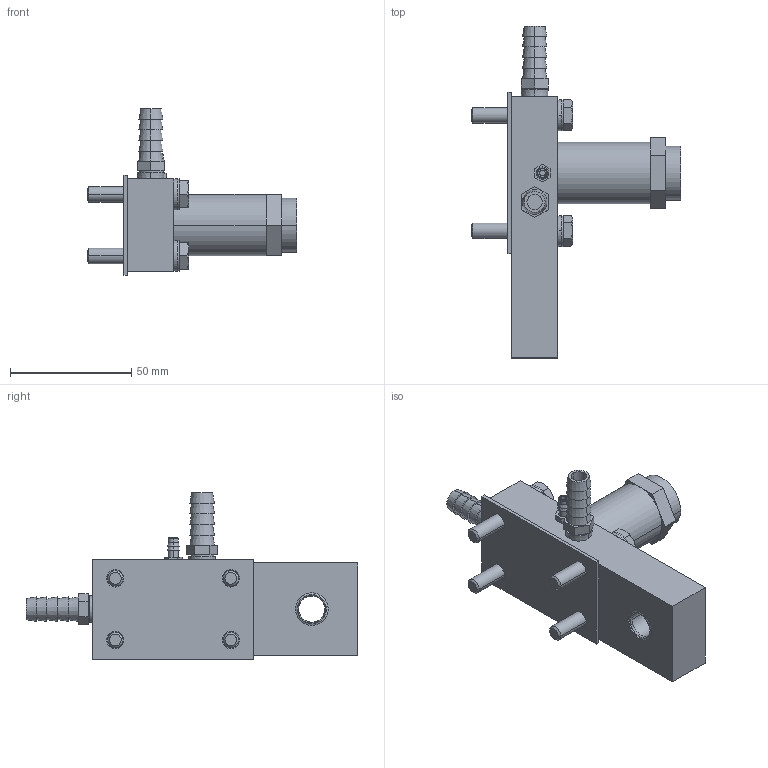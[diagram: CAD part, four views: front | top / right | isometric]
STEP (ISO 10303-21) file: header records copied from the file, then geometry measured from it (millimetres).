
FILE_DESCRIPTION((''),'2;1');
FILE_NAME('UJ2_ASM','2017-08-24T',('jennifer.elliott'),('CenterLine (Windsor) Ltd - Automation Components Division'),'PRO/ENGINEER BY PARAMETRIC TECHNOLOGY CORPORATION, 2015030','PRO/ENGINEER BY PARAMETRIC TECHNOLOGY CORPORATION, 2015030','');
FILE_SCHEMA(('AUTOMOTIVE_DESIGN { 1 0 10303 214 1 1 1 1 }'));
Length unit declared in the file: inch
Products named in the file (22): PRT0317; PRT0318; PRT0319; PRT0320; PRT0321; PRT0322; PRT0323; PRT0324; PRT0325; PRT0326; PRT0327; PRT0328; PRT0329; PRT0330; PRT0331; PRT0332; PRT0333; PRT0334; PRT0335; PRT0336; PRT0337; UJ2_ASM
Assembly tree (21 placements, depth 2):
  UJ2_ASM
    PRT0317
    PRT0318
    PRT0319
    PRT0320
    PRT0321
    PRT0322
    PRT0323
    PRT0324
    PRT0325
    PRT0326
    PRT0327
    PRT0328
    PRT0329
    PRT0330
    PRT0331
    PRT0332
    PRT0333
    PRT0334
    PRT0335
    PRT0336
    PRT0337
Bounding box: 86.55 x 136.91 x 68.64 mm (x, y, z)
Volume: 112287.3 mm3; surface area: 42612 mm2
Topology: 21 solids, 21 shells, 283 faces, 606 edges, 390 vertices
Faces by surface type: plane 123, cylinder 88, cone 68, torus 4
Entity records: 9358 total; most frequent: CARTESIAN_POINT 1638, DIRECTION 1492, ORIENTED_EDGE 1212, AXIS2_PLACEMENT_3D 608, EDGE_CURVE 606, VERTEX_POINT 390, EDGE_LOOP 350, FACE_OUTER_BOUND 283
